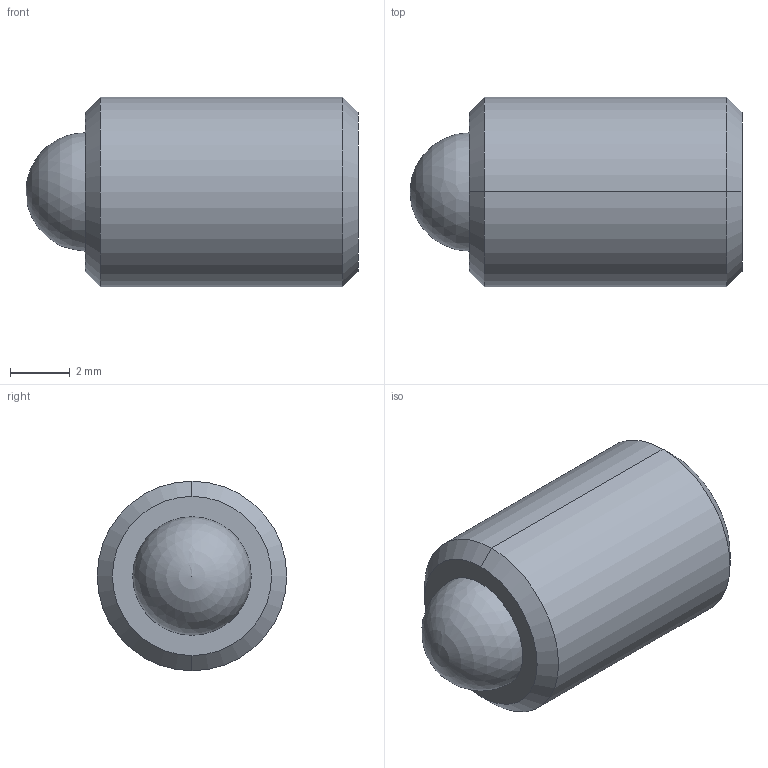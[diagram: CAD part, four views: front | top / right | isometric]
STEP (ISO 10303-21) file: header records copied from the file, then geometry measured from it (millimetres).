
FILE_DESCRIPTION (( 'STEP AP214' ), '1' );
FILE_NAME ('TS250-100-438.STEP', '2013-02-11T22:25:27', ( 'workpc' ), ( 'Microsoft' ), 'SwSTEP 2.0', 'SolidWorks 2013', '' );
FILE_SCHEMA (( 'AUTOMOTIVE_DESIGN' ));
Length unit declared in the file: inch
Products named in the file (1): TS250-100-438
Bounding box: 11.13 x 6.35 x 6.35 mm (x, y, z)
Volume: 281.6 mm3; surface area: 326.2 mm2
Topology: 2 solids, 2 shells, 20 faces, 45 edges, 29 vertices
Faces by surface type: plane 10, cylinder 4, cone 4, sphere 2
Entity records: 599 total; most frequent: DIRECTION 96, CARTESIAN_POINT 87, ORIENTED_EDGE 80, EDGE_CURVE 40, AXIS2_PLACEMENT_3D 35, VECTOR 26, LINE 26, VERTEX_POINT 26
